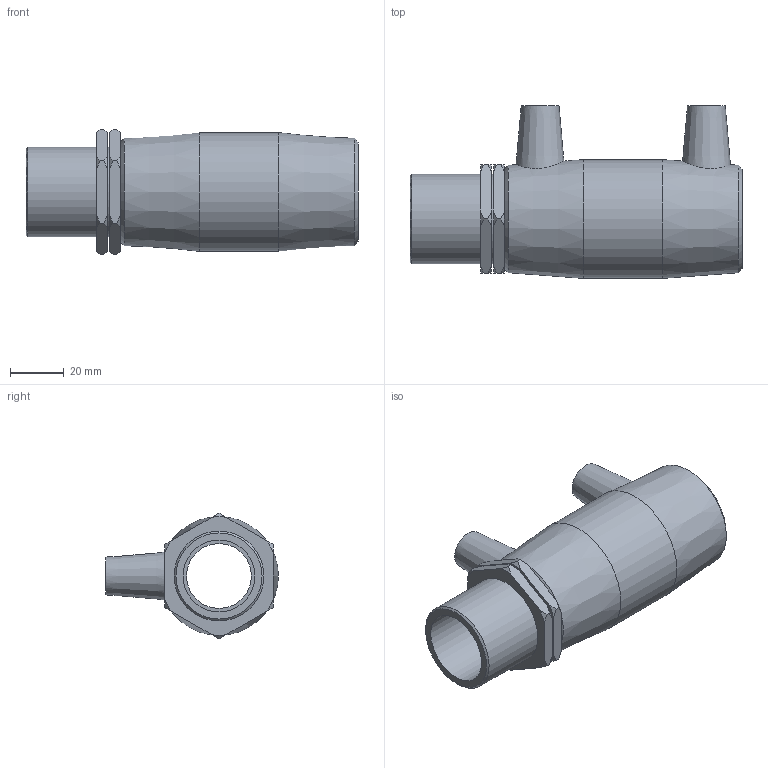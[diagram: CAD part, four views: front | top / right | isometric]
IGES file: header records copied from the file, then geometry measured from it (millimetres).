
Global section: file name: 497104032010.ipt; native system: Autodesk Inventor 2015; preprocessor: unknown; author: KIM; date: 20171106.094425; units: millimetre
Bounding box: 123 x 64 x 46.55 mm (x, y, z)
Volume: 91920.2 mm3; surface area: 34488.6 mm2
Topology: 1 solids, 2 shells, 75 faces, 186 edges, 126 vertices
Faces by surface type: cone 31, plane 29, revolution 8, cylinder 7
Full cylindrical faces by diameter (mm): 4 x2, 32 x2, 33.249 x2, 44 x1
